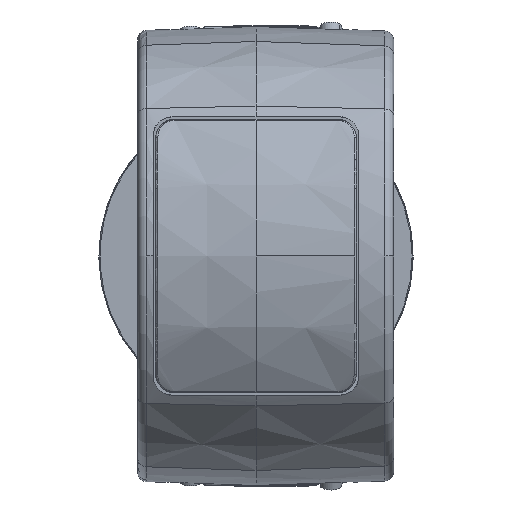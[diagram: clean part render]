
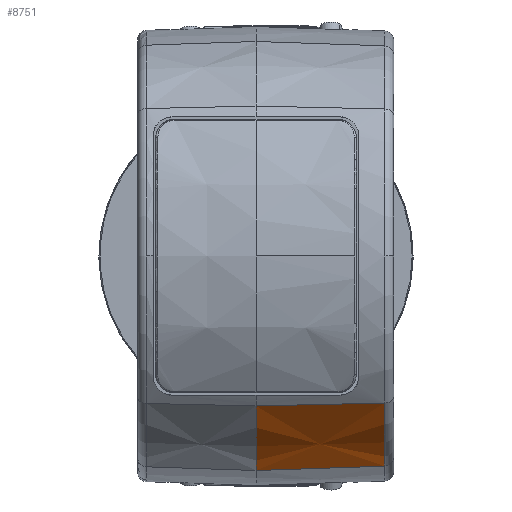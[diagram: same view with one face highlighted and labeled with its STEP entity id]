
A CAD part, left-side view. The second image highlights one B-rep face of the part: STEP entity #8751.
In plain terms, the highlighted conical face has half-angle 2 degrees and reference radius 40 mm.
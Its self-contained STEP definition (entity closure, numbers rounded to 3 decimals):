
#1587 = FACE_OUTER_BOUND ( 'NONE', #3826, .T. ) ;
#1593 = CONICAL_SURFACE ( 'NONE', #21478, 40., 0.035 ) ;
#1995 = DIRECTION ( 'NONE',  ( 0.027, -0.999, 0.022 ) ) ;
#1996 = CARTESIAN_POINT ( 'NONE',  ( 406.066, 0., 858.084 ) ) ;
#1999 = CARTESIAN_POINT ( 'NONE',  ( 426.874, 0., 844.714 ) ) ;
#2000 = DIRECTION ( 'NONE',  ( 0.009, -0.999, 0.034 ) ) ;
#2008 = CARTESIAN_POINT ( 'NONE',  ( 437.033, -26.57, 883.403 ) ) ;
#2009 = DIRECTION ( 'NONE',  ( 0., 1., 0. ) ) ;
#2010 = DIRECTION ( 'NONE',  ( -1., 0., 0. ) ) ;
#2013 = CARTESIAN_POINT ( 'NONE',  ( 437.033, 0., 883.403 ) ) ;
#2014 = DIRECTION ( 'NONE',  ( 0., 1., 0. ) ) ;
#2015 = DIRECTION ( 'NONE',  ( 1., 0., 0. ) ) ;
#3826 = EDGE_LOOP ( 'NONE', ( #7643, #7644, #7645, #7646 ) ) ;
#5149 = CARTESIAN_POINT ( 'NONE',  ( 406.784, -26.57, 858.671 ) ) ;
#6595 = DIRECTION ( 'NONE',  ( 1., 0., 0. ) ) ;
#6600 = DIRECTION ( 'NONE',  ( 0., 1., 0. ) ) ;
#6602 = CARTESIAN_POINT ( 'NONE',  ( 437.033, 0., 883.403 ) ) ;
#7643 = ORIENTED_EDGE ( 'NONE', *, *, #9395, .T. ) ;
#7644 = ORIENTED_EDGE ( 'NONE', *, *, #9396, .T. ) ;
#7645 = ORIENTED_EDGE ( 'NONE', *, *, #9393, .F. ) ;
#7646 = ORIENTED_EDGE ( 'NONE', *, *, #9397, .F. ) ;
#8751 = ADVANCED_FACE ( 'NONE', ( #1587 ), #1593, .T. ) ;
#9393 = EDGE_CURVE ( 'NONE', #19535, #16625, #17878, .T. ) ;
#9395 = EDGE_CURVE ( 'NONE', #19528, #19526, #17882, .T. ) ;
#9396 = EDGE_CURVE ( 'NONE', #19526, #16625, #17879, .T. ) ;
#9397 = EDGE_CURVE ( 'NONE', #19528, #19535, #17885, .T. ) ;
#16625 = VERTEX_POINT ( 'NONE', #5149 ) ;
#17878 = LINE ( 'NONE', #1996, #17881 ) ;
#17879 = CIRCLE ( 'NONE', #18770, 39.072 ) ;
#17881 = VECTOR ( 'NONE', #1995, 1000. ) ;
#17882 = LINE ( 'NONE', #1999, #17884 ) ;
#17884 = VECTOR ( 'NONE', #2000, 1000. ) ;
#17885 = CIRCLE ( 'NONE', #18771, 40. ) ;
#18770 = AXIS2_PLACEMENT_3D ( 'NONE', #2008, #2009, #2010 ) ;
#18771 = AXIS2_PLACEMENT_3D ( 'NONE', #2013, #2014, #2015 ) ;
#19526 = VERTEX_POINT ( 'NONE', #20984 ) ;
#19528 = VERTEX_POINT ( 'NONE', #20999 ) ;
#19535 = VERTEX_POINT ( 'NONE', #20980 ) ;
#20980 = CARTESIAN_POINT ( 'NONE',  ( 406.066, 0., 858.084 ) ) ;
#20984 = CARTESIAN_POINT ( 'NONE',  ( 427.11, -26.57, 845.612 ) ) ;
#20999 = CARTESIAN_POINT ( 'NONE',  ( 426.874, 0., 844.714 ) ) ;
#21478 = AXIS2_PLACEMENT_3D ( 'NONE', #6602, #6600, #6595 ) ;
